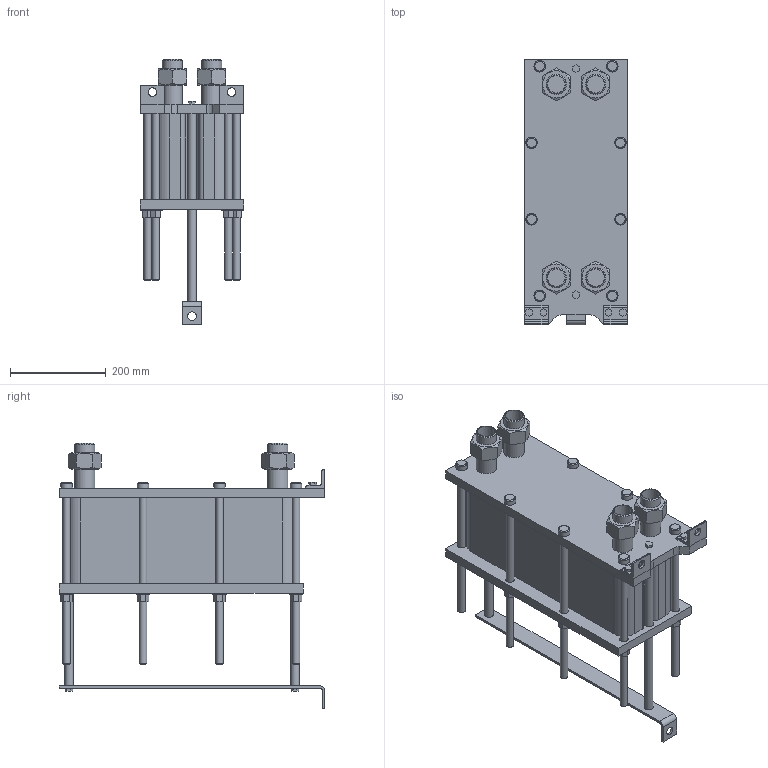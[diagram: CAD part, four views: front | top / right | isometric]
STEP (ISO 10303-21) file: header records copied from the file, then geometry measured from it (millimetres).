
FILE_DESCRIPTION(/* description */ (''),/* implementation_level */ '2;1');
FILE_NAME(/* name */ 'C:\Users\zhuro\Desktop\ENCO\TO\ЭН-004\ЭН-0,5-004-58-1.stp',/* time_stamp */ '2022-06-06T10:47:53+03:00',/* author */ ('zhuro'),/* organization */ (''),/* preprocessor_version */ 'ST-DEVELOPER v18.1',/* originating_system */ 'Autodesk Inventor 2022',/* authorisation */ '');
FILE_SCHEMA (('AUTOMOTIVE_DESIGN { 1 0 10303 214 3 1 1 }'));
Length unit declared in the file: millimetre
Products named in the file (1): ЭН-0,5-004-58-1
Bounding box: 216 x 555 x 555.4 mm (x, y, z)
Volume: 19091396.9 mm3; surface area: 1348227.7 mm2
Topology: 40 solids, 40 shells, 403 faces, 865 edges, 574 vertices
Faces by surface type: plane 272, cylinder 103, cone 28
Full cylindrical faces by diameter (mm): 10 x4, 16 x16, 18 x29, 20 x2, 24 x8, 28 x8, 36.3 x5, 42.3 x9
Entity records: 11137 total; most frequent: CARTESIAN_POINT 1939, DIRECTION 1879, ORIENTED_EDGE 1730, EDGE_CURVE 865, AXIS2_PLACEMENT_3D 658, VERTEX_POINT 574, LINE 563, VECTOR 563
